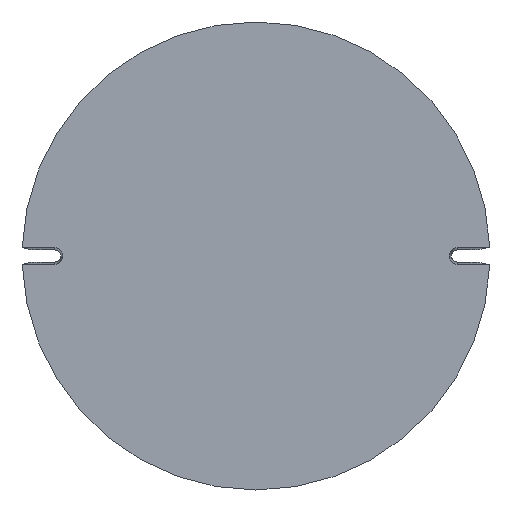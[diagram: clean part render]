
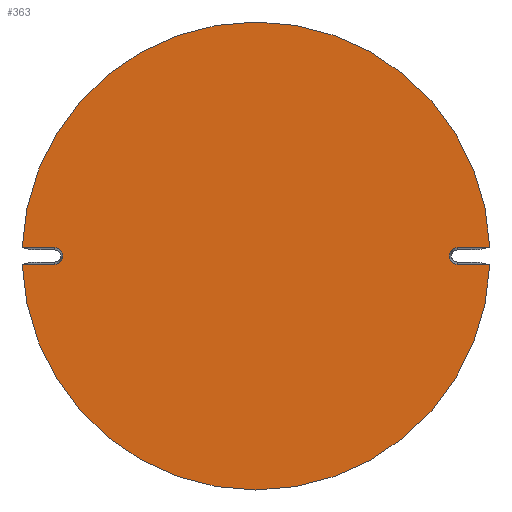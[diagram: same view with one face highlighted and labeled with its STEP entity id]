
A CAD part, front view. The second image highlights one B-rep face of the part: STEP entity #363.
In plain terms, the highlighted planar face has unit normal (0, -1, 0).
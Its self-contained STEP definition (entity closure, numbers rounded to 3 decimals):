
#73=DIRECTION('',(-1.,0.,0.));
#74=VECTOR('',#73,22.897);
#75=CARTESIAN_POINT('',(-142.,0.,-5.822));
#76=LINE('',#75,#74);
#77=CARTESIAN_POINT('',(-142.,0.,0.));
#78=DIRECTION('',(0.,1.,0.));
#79=DIRECTION('',(0.,0.,1.));
#80=AXIS2_PLACEMENT_3D('',#77,#78,#79);
#82=DIRECTION('',(1.,0.,0.));
#83=VECTOR('',#82,22.897);
#84=CARTESIAN_POINT('',(-164.897,0.,5.822));
#85=LINE('',#84,#83);
#86=CARTESIAN_POINT('',(0.,0.,0.));
#87=DIRECTION('',(0.,-1.,0.));
#88=DIRECTION('',(0.999,0.,0.037));
#89=AXIS2_PLACEMENT_3D('',#86,#87,#88);
#91=DIRECTION('',(1.,0.,0.015));
#92=VECTOR('',#91,22.974);
#93=CARTESIAN_POINT('',(141.913,0.,5.822));
#94=LINE('',#93,#92);
#95=CARTESIAN_POINT('',(142.,0.,0.));
#96=DIRECTION('',(0.,1.,0.));
#97=DIRECTION('',(-0.015,0.,-1.));
#98=AXIS2_PLACEMENT_3D('',#95,#96,#97);
#100=DIRECTION('',(-1.,0.,0.015));
#101=VECTOR('',#100,22.974);
#102=CARTESIAN_POINT('',(164.885,0.,-6.165));
#103=LINE('',#102,#101);
#104=CARTESIAN_POINT('',(0.,0.,0.));
#105=DIRECTION('',(0.,-1.,0.));
#106=DIRECTION('',(-0.999,0.,-0.035));
#107=AXIS2_PLACEMENT_3D('',#104,#105,#106);
#207=CARTESIAN_POINT('',(-142.,0.,-5.822));
#208=CARTESIAN_POINT('',(-164.897,0.,-5.822));
#209=VERTEX_POINT('',#207);
#210=VERTEX_POINT('',#208);
#211=CARTESIAN_POINT('',(-164.897,0.,5.822));
#212=CARTESIAN_POINT('',(-142.,0.,5.822));
#213=VERTEX_POINT('',#211);
#214=VERTEX_POINT('',#212);
#215=CARTESIAN_POINT('',(141.913,0.,5.822));
#216=CARTESIAN_POINT('',(164.885,0.,6.165));
#217=VERTEX_POINT('',#215);
#218=VERTEX_POINT('',#216);
#219=CARTESIAN_POINT('',(164.885,0.,-6.165));
#220=CARTESIAN_POINT('',(141.913,0.,-5.822));
#221=VERTEX_POINT('',#219);
#222=VERTEX_POINT('',#220);
#342=CARTESIAN_POINT('',(0.,0.,0.));
#343=DIRECTION('',(0.,1.,0.));
#344=DIRECTION('',(1.,0.,0.));
#345=AXIS2_PLACEMENT_3D('',#342,#343,#344);
#346=PLANE('',#345);
#348=ORIENTED_EDGE('',*,*,#347,.F.);
#349=ORIENTED_EDGE('',*,*,#319,.F.);
#350=ORIENTED_EDGE('',*,*,#331,.F.);
#352=ORIENTED_EDGE('',*,*,#351,.F.);
#354=ORIENTED_EDGE('',*,*,#353,.F.);
#356=ORIENTED_EDGE('',*,*,#355,.F.);
#358=ORIENTED_EDGE('',*,*,#357,.F.);
#360=ORIENTED_EDGE('',*,*,#359,.F.);
#361=EDGE_LOOP('',(#348,#349,#350,#352,#354,#356,#358,#360));
#362=FACE_OUTER_BOUND('',#361,.F.);
#363=ADVANCED_FACE('',(#362),#346,.F.);
#81=CIRCLE('',#80,5.822);
#90=CIRCLE('',#89,165.);
#99=CIRCLE('',#98,5.822);
#108=CIRCLE('',#107,165.);
#319=EDGE_CURVE('',#214,#209,#81,.T.);
#331=EDGE_CURVE('',#213,#214,#85,.T.);
#347=EDGE_CURVE('',#209,#210,#76,.T.);
#351=EDGE_CURVE('',#218,#213,#90,.T.);
#353=EDGE_CURVE('',#217,#218,#94,.T.);
#355=EDGE_CURVE('',#222,#217,#99,.T.);
#357=EDGE_CURVE('',#221,#222,#103,.T.);
#359=EDGE_CURVE('',#210,#221,#108,.T.);
